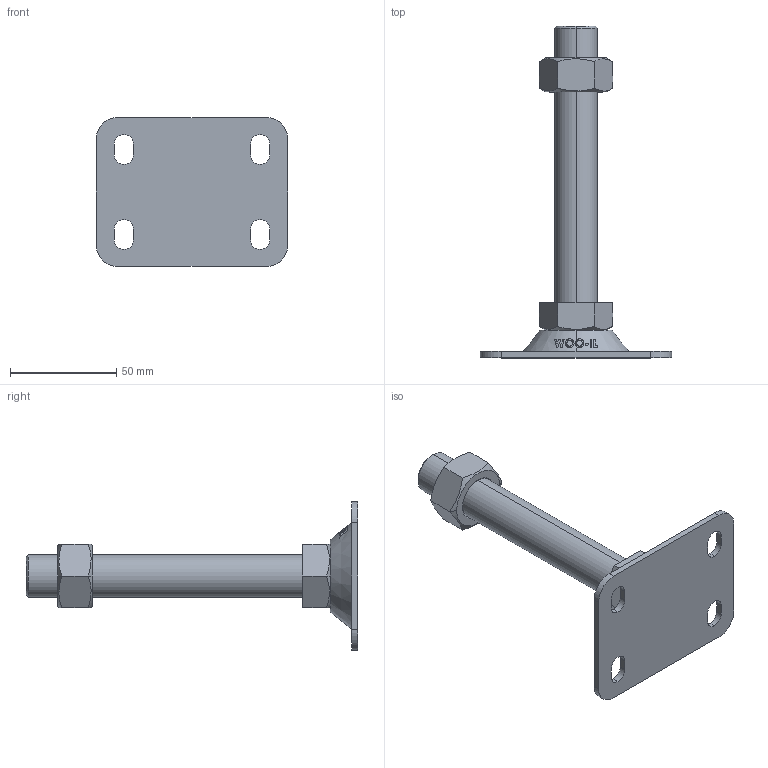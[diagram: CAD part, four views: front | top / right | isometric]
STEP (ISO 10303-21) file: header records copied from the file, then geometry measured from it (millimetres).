
FILE_DESCRIPTION (( 'STEP AP214' ), '1' );
FILE_NAME ('FABL7090-M20-130.step', '2021-03-28T23:52:30', ( '' ), ( '' ), 'SwSTEP 2.0', 'SolidWorks 2019', '' );
FILE_SCHEMA (( 'AUTOMOTIVE_DESIGN' ));
Length unit declared in the file: millimetre
Products named in the file (2): FABL7090-M20-130
Bounding box: 90 x 156 x 70 mm (x, y, z)
Volume: 89489.1 mm3; surface area: 26763 mm2
Topology: 2 solids, 2 shells, 146 faces, 384 edges, 252 vertices
Faces by surface type: plane 58, cylinder 48, cone 22, bspline 18
Entity records: 6096 total; most frequent: CARTESIAN_POINT 2668, ORIENTED_EDGE 768, DIRECTION 582, EDGE_CURVE 384, VERTEX_POINT 252, AXIS2_PLACEMENT_3D 210, EDGE_LOOP 166, LINE 162
